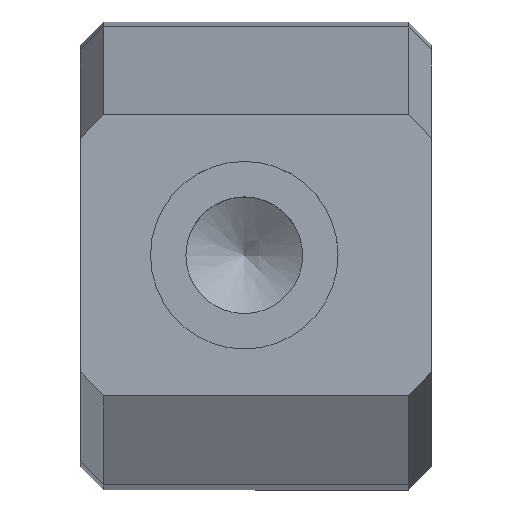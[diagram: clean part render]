
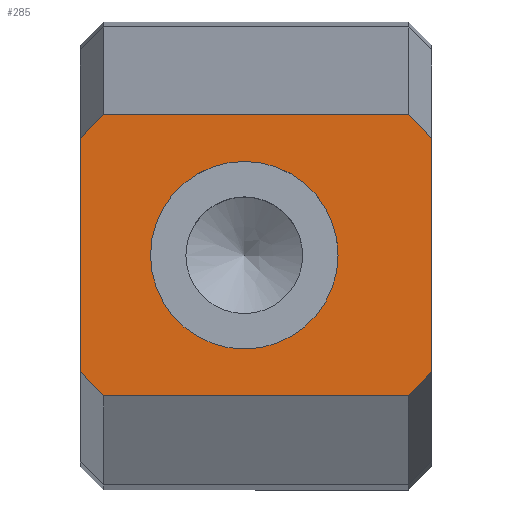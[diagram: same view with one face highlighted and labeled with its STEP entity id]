
A CAD part, top view. The second image highlights one B-rep face of the part: STEP entity #285.
In plain terms, the highlighted planar face has unit normal (0, 0, 1).
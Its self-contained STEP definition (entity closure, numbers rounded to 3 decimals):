
#73=CARTESIAN_POINT('',(15.0,4.975,19.05));
#74=VERTEX_POINT('',#73);
#83=CARTESIAN_POINT('',(15.0,-4.975,19.05));
#84=VERTEX_POINT('',#83);
#85=CARTESIAN_POINT('',(15.0,-4.975,19.05));
#86=DIRECTION('',(0.0,1.0,0.0));
#87=VECTOR('',#86,9.951);
#88=LINE('',#85,#87);
#89=EDGE_CURVE('',#84,#74,#88,.T.);
#212=CARTESIAN_POINT('',(0.0,-6.,19.05));
#213=DIRECTION('',(0.0,0.0,1.0));
#214=DIRECTION('',(1.0,0.0,0.0));
#215=AXIS2_PLACEMENT_3D('',#212,#213,#214);
#216=PLANE('',#215);
#217=CARTESIAN_POINT('',(0.0,4.975,19.05));
#218=VERTEX_POINT('',#217);
#219=CARTESIAN_POINT('',(1.0,6.,19.05));
#220=VERTEX_POINT('',#219);
#221=CARTESIAN_POINT('',(0.0,4.975,19.05));
#222=DIRECTION('',(0.698,0.716,0.0));
#223=VECTOR('',#222,1.432);
#224=LINE('',#221,#223);
#225=EDGE_CURVE('',#218,#220,#224,.T.);
#226=ORIENTED_EDGE('',*,*,#225,.F.);
#227=CARTESIAN_POINT('',(0.0,-4.975,19.05));
#228=VERTEX_POINT('',#227);
#229=CARTESIAN_POINT('',(0.0,4.975,19.05));
#230=DIRECTION('',(0.0,-1.0,0.0));
#231=VECTOR('',#230,9.951);
#232=LINE('',#229,#231);
#233=EDGE_CURVE('',#218,#228,#232,.T.);
#234=ORIENTED_EDGE('',*,*,#233,.T.);
#235=CARTESIAN_POINT('',(1.0,-6.,19.05));
#236=VERTEX_POINT('',#235);
#237=CARTESIAN_POINT('',(1.0,-6.,19.05));
#238=DIRECTION('',(-0.698,0.716,0.0));
#239=VECTOR('',#238,1.432);
#240=LINE('',#237,#239);
#241=EDGE_CURVE('',#236,#228,#240,.T.);
#242=ORIENTED_EDGE('',*,*,#241,.F.);
#243=CARTESIAN_POINT('',(14.0,-6.,19.05));
#244=VERTEX_POINT('',#243);
#245=CARTESIAN_POINT('',(1.0,-6.,19.05));
#246=DIRECTION('',(1.0,0.0,0.0));
#247=VECTOR('',#246,13.0);
#248=LINE('',#245,#247);
#249=EDGE_CURVE('',#236,#244,#248,.T.);
#250=ORIENTED_EDGE('',*,*,#249,.T.);
#251=CARTESIAN_POINT('',(15.0,-4.975,19.05));
#252=DIRECTION('',(-0.698,-0.716,0.0));
#253=VECTOR('',#252,1.432);
#254=LINE('',#251,#253);
#255=EDGE_CURVE('',#84,#244,#254,.T.);
#256=ORIENTED_EDGE('',*,*,#255,.F.);
#257=ORIENTED_EDGE('',*,*,#89,.T.);
#258=CARTESIAN_POINT('',(14.0,6.,19.05));
#259=VERTEX_POINT('',#258);
#260=CARTESIAN_POINT('',(14.0,6.,19.05));
#261=DIRECTION('',(0.698,-0.716,0.0));
#262=VECTOR('',#261,1.432);
#263=LINE('',#260,#262);
#264=EDGE_CURVE('',#259,#74,#263,.T.);
#265=ORIENTED_EDGE('',*,*,#264,.F.);
#266=CARTESIAN_POINT('',(1.0,6.,19.05));
#267=DIRECTION('',(1.0,0.0,0.0));
#268=VECTOR('',#267,13.0);
#269=LINE('',#266,#268);
#270=EDGE_CURVE('',#220,#259,#269,.T.);
#271=ORIENTED_EDGE('',*,*,#270,.F.);
#272=EDGE_LOOP('',(#226,#234,#242,#250,#256,#257,#265,#271));
#273=FACE_OUTER_BOUND('',#272,.T.);
#274=CARTESIAN_POINT('',(11.0,0.0,19.05));
#275=VERTEX_POINT('',#274);
#276=CARTESIAN_POINT('',(7.,0.0,19.05));
#277=DIRECTION('',(0.0,0.0,-1.0));
#278=DIRECTION('',(1.0,0.0,0.0));
#279=AXIS2_PLACEMENT_3D('',#276,#277,#278);
#280=CIRCLE('',#279,4.0);
#281=EDGE_CURVE('',#275,#275,#280,.T.);
#282=ORIENTED_EDGE('',*,*,#281,.T.);
#283=EDGE_LOOP('',(#282));
#284=FACE_BOUND('',#283,.T.);
#285=ADVANCED_FACE('',(#273,#284),#216,.T.);
